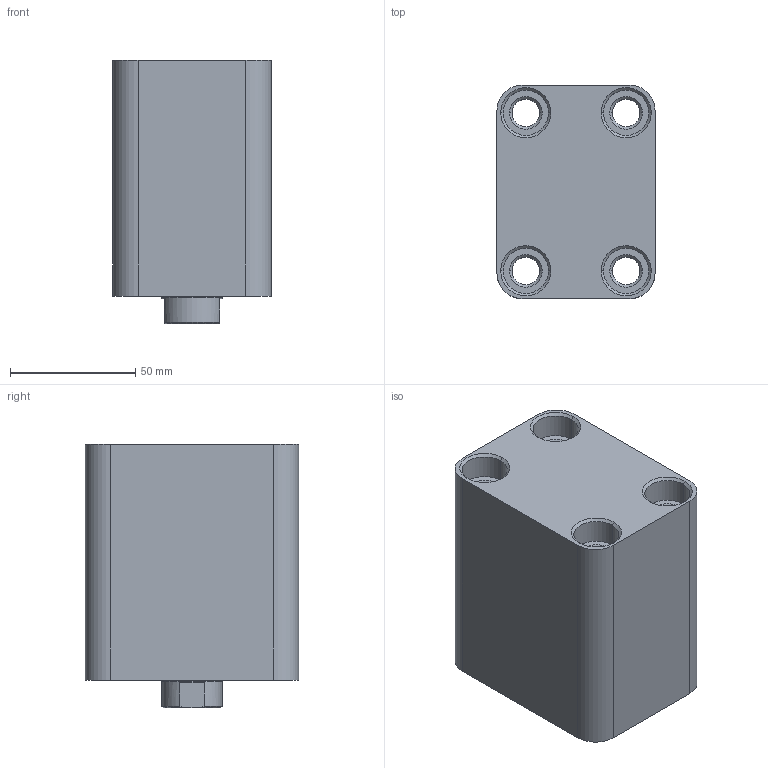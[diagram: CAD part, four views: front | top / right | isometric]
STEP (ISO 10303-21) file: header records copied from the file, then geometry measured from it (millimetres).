
FILE_DESCRIPTION (( 'STEP AP214' ), '1' );
FILE_NAME ('KBZ_02_40_25_40.STEP', '2022-10-02T11:14:01', ( '' ), ( '' ), 'SwSTEP 2.0', 'SolidWorks 2021', '' );
FILE_SCHEMA (( 'AUTOMOTIVE_DESIGN' ));
Length unit declared in the file: millimetre
Products named in the file (9): KBZ_02_40_GOVDE_WEB; KBZ_02_25_K_MIL_WEB; KBZ_03_40_25_烰_KAPAK; KBZ_02_40_25_40; 25_28_PAP_25_05; KBZ_03_40_25_ON_KAPAK; K22-25X35X6; K05-25X31X4; KO-38X3
Assembly tree (8 placements, depth 3):
  KBZ_02_40_25_40
    KBZ_02_40_GOVDE_WEB
    KBZ_03_40_25_烰_KAPAK
      KBZ_03_40_25_ON_KAPAK
      K05-25X31X4
      KO-38X3
      25_28_PAP_25_05
      K22-25X35X6
    KBZ_02_25_K_MIL_WEB
Bounding box: 63 x 85 x 105 mm (x, y, z)
Volume: 396160.2 mm3; surface area: 90108.9 mm2
Topology: 7 solids, 7 shells, 570 faces, 1380 edges, 877 vertices
Faces by surface type: plane 207, bspline 195, cone 84, cylinder 76, torus 8
Entity records: 25922 total; most frequent: CARTESIAN_POINT 13369, ORIENTED_EDGE 2756, DIRECTION 1999, EDGE_CURVE 1378, VERTEX_POINT 877, VECTOR 723, LINE 723, EDGE_LOOP 647
